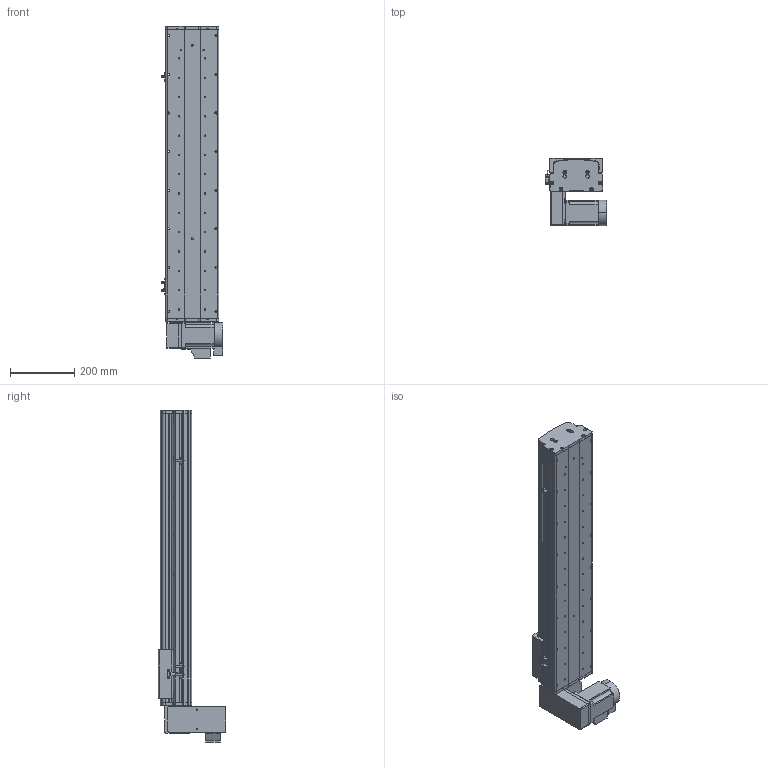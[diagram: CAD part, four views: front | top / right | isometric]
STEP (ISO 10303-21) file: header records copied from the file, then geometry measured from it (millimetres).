
FILE_DESCRIPTION (( 'STEP AP214' ), '1' );
FILE_NAME ('KSD165B-S650-MLD-CM .STEP', '2017-10-16T07:01:16', ( '微软用户' ), ( '微软中国' ), 'SwSTEP 2.0', 'SolidWorks 2014', '' );
FILE_SCHEMA (( 'AUTOMOTIVE_DESIGN' ));
Length unit declared in the file: millimetre
Products named in the file (17): 拸秶雄ん750W侜督萇儂; U倰嫖萇假蚾璃; U倰嫖萇EEㄜSX672; 覜茼え68遵圉猾敕; KSD165模组-同步带-防撞垫2; KSD165模组同步带-防撞垫1; KSD165耀郪-ヶ傷啣1-肮祭湍; KSD165模组-后端板1-同步带; KSD165模组-同步带滑动座-最新版; KSD165B-S650-MLD-CM  ; 130宽模组马达安装板连板上下折丝杆同步带; 130宽模组保护罩上下左右折-同步带; HTPA26S5M250-A-H8 750W萇儂蚚; HTPA26S5M250-A-H8 400W萇儂蚚 ; 165宽马达安装板同步带左-改; KSD165模组-同步带防尘盖1-650行程-最新版; KSD165模组同步带底板-650行程-最新
Assembly tree (20 placements, depth 2):
  KSD165B-S650-MLD-CM  
    KSD165模组-同步带滑动座-最新版
    KSD165模组-后端板1-同步带
    KSD165耀郪-ヶ傷啣1-肮祭湍
    KSD165模组同步带-防撞垫1
    KSD165模组-同步带-防撞垫2
    覜茼え68遵圉猾敕
    U倰嫖萇EEㄜSX672  x3
    U倰嫖萇假蚾璃  x3
    拸秶雄ん750W侜督萇儂
    KSD165模组同步带底板-650行程-最新
    KSD165模组-同步带防尘盖1-650行程-最新版
    165宽马达安装板同步带左-改
    HTPA26S5M250-A-H8 400W萇儂蚚 
    HTPA26S5M250-A-H8 750W萇儂蚚
    130宽模组保护罩上下左右折-同步带
    130宽模组马达安装板连板上下折丝杆同步带
Bounding box: 191.2 x 210 x 1031 mm (x, y, z)
Volume: 6337035.4 mm3; surface area: 1469859.9 mm2
Topology: 21 solids, 22 shells, 1925 faces, 5424 edges, 3540 vertices
Faces by surface type: cylinder 1229, plane 584, cone 112
Entity records: 62104 total; most frequent: CARTESIAN_POINT 12726, DIRECTION 10240, ORIENTED_EDGE 9508, EDGE_CURVE 4754, AXIS2_PLACEMENT_3D 4012, VERTEX_POINT 3132, CIRCLE 2284, VECTOR 2216
